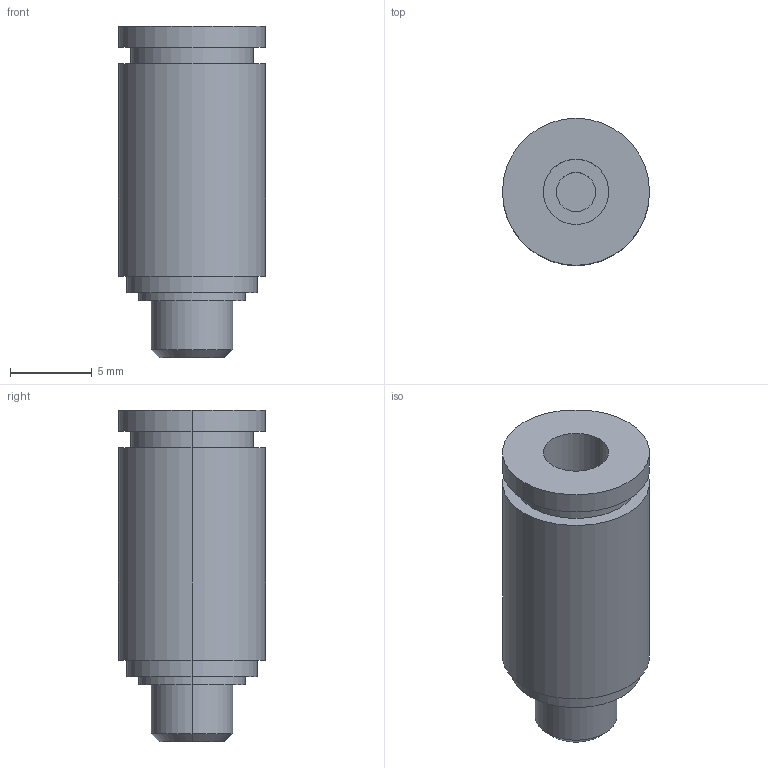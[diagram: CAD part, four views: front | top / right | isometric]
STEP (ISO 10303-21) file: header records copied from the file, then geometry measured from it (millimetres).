
FILE_DESCRIPTION (( 'STEP AP203' ), '1' );
FILE_NAME ('14010019 M5 gerade.STEP', '2016-11-16T16:38:34', ( '' ), ( '' ), 'SwSTEP 2.0', 'SolidWorks 2015', '' );
FILE_SCHEMA (( 'CONFIG_CONTROL_DESIGN' ));
Length unit declared in the file: millimetre
Products named in the file (1): 14010019 M5 gerade
Bounding box: 9 x 9 x 20.3 mm (x, y, z)
Volume: 933.7 mm3; surface area: 868.9 mm2
Topology: 1 solids, 1 shells, 30 faces, 58 edges, 38 vertices
Faces by surface type: cylinder 18, plane 10, cone 2
Entity records: 861 total; most frequent: DIRECTION 158, CARTESIAN_POINT 127, ORIENTED_EDGE 116, AXIS2_PLACEMENT_3D 69, EDGE_CURVE 58, VERTEX_POINT 38, EDGE_LOOP 38, CIRCLE 38
